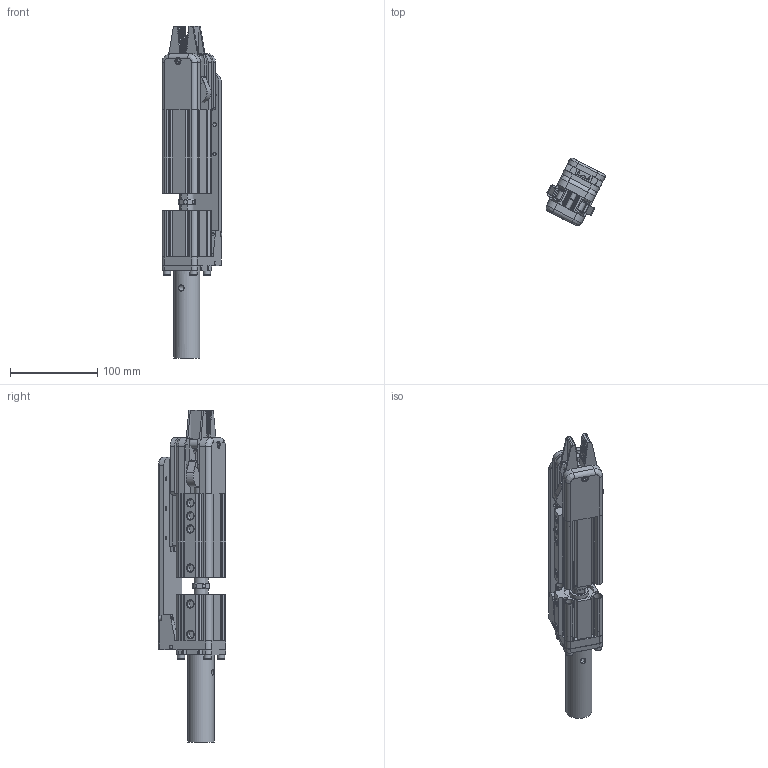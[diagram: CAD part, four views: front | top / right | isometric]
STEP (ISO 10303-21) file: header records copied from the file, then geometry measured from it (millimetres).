
FILE_DESCRIPTION(/* description */ (''),/* implementation_level */ '2;1');
FILE_NAME(/* name */ '8Y00468-GRP32A-3020--30.stp',/* time_stamp */ '2023-02-22T13:50:31+08:00',/* author */ (''),/* organization */ (''),/* preprocessor_version */ 'ST-DEVELOPER v16',/* originating_system */ 'SIEMENS PLM Software NX 10.0',/* authorisation */ '');
FILE_SCHEMA (('AUTOMOTIVE_DESIGN { 1 0 10303 214 3 1 1 1 }'));
Length unit declared in the file: millimetre
Products named in the file (1): _model42
Bounding box: 68.82 x 77.88 x 380.95 mm (x, y, z)
Volume: 503545.9 mm3; surface area: 197961 mm2
Topology: 24 solids, 45 shells, 1443 faces, 3595 edges, 2297 vertices
Faces by surface type: plane 901, cylinder 353, cone 150, torus 22, sphere 14, bspline 3
Full cylindrical faces by diameter (mm): 2.5 x2, 3.3 x6, 4 x12, 4.1 x1, 4.2 x16, 4.5 x8, 4.917 x8, 5 x8, 5.2 x12, 5.5 x8, 6 x15, 6.5 x1, 6.647 x3, 6.8 x1, 7 x14, 8 x11, 8.5 x9, 8.566 x6, 8.6 x1, 9 x16, 10 x4, 13 x2, 13.5 x1, 14 x1, 15 x4, 16 x5, 17 x12, 20 x3, 21 x3, 30 x1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
Entity records: 50657 total; most frequent: CARTESIAN_POINT 7878, DIRECTION 6878, ORIENTED_EDGE 6084, EDGE_CURVE 3042, AXIS2_PLACEMENT_3D 2467, VERTEX_POINT 2135, EDGE_LOOP 1970, LINE 1944
